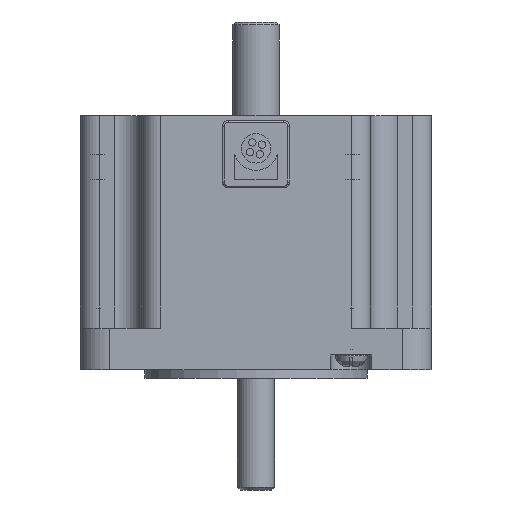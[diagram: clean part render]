
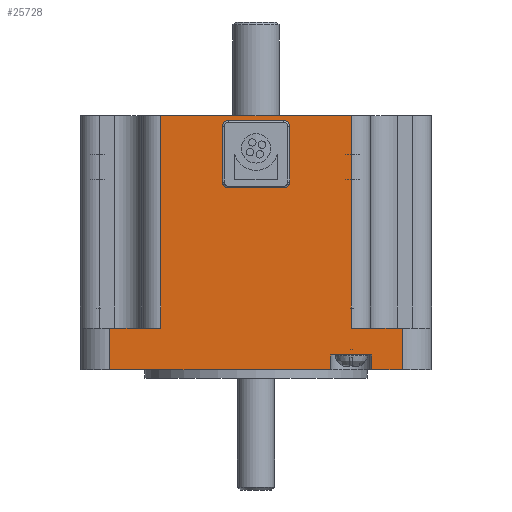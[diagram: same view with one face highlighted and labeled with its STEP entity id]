
A CAD part, front view. The second image highlights one B-rep face of the part: STEP entity #25728.
In plain terms, the highlighted planar face has unit normal (0, -1, 0).
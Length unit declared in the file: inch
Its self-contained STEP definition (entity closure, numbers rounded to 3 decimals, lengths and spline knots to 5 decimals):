
#904=CARTESIAN_POINT('',(0.18701,-1.1811,1.2815));
#905=VERTEX_POINT('',#904);
#912=CARTESIAN_POINT('',(0.22638,-1.1811,1.32087));
#913=VERTEX_POINT('',#912);
#914=CARTESIAN_POINT('',(0.18701,-1.1811,1.32087));
#915=DIRECTION('',(0.0,1.0,0.0));
#916=DIRECTION('',(1.0,0.0,0.0));
#917=AXIS2_PLACEMENT_3D('',#914,#915,#916);
#918=CIRCLE('',#917,0.03937);
#919=EDGE_CURVE('',#913,#905,#918,.T.);
#936=CARTESIAN_POINT('',(-0.18701,-1.1811,1.2815));
#937=VERTEX_POINT('',#936);
#944=CARTESIAN_POINT('',(0.18701,-1.1811,1.2815));
#945=DIRECTION('',(-1.0,0.0,0.0));
#946=VECTOR('',#945,0.37402);
#947=LINE('',#944,#946);
#948=EDGE_CURVE('',#905,#937,#947,.T.);
#960=CARTESIAN_POINT('',(-0.22638,-1.1811,1.32087));
#961=VERTEX_POINT('',#960);
#968=CARTESIAN_POINT('',(-0.18701,-1.1811,1.32087));
#969=DIRECTION('',(0.0,1.0,0.0));
#970=DIRECTION('',(0.0,0.0,-1.0));
#971=AXIS2_PLACEMENT_3D('',#968,#969,#970);
#972=CIRCLE('',#971,0.03937);
#973=EDGE_CURVE('',#937,#961,#972,.T.);
#985=CARTESIAN_POINT('',(-0.22638,-1.1811,1.69488));
#986=VERTEX_POINT('',#985);
#993=CARTESIAN_POINT('',(-0.22638,-1.1811,1.32087));
#994=DIRECTION('',(0.0,0.0,1.0));
#995=VECTOR('',#994,0.37402);
#996=LINE('',#993,#995);
#997=EDGE_CURVE('',#961,#986,#996,.T.);
#1296=CARTESIAN_POINT('',(-0.18701,-1.1811,1.73425));
#1297=VERTEX_POINT('',#1296);
#1304=CARTESIAN_POINT('',(-0.18701,-1.1811,1.69488));
#1305=DIRECTION('',(0.0,1.0,0.0));
#1306=DIRECTION('',(-1.0,0.0,0.0));
#1307=AXIS2_PLACEMENT_3D('',#1304,#1305,#1306);
#1308=CIRCLE('',#1307,0.03937);
#1309=EDGE_CURVE('',#986,#1297,#1308,.T.);
#1321=CARTESIAN_POINT('',(0.18701,-1.1811,1.73425));
#1322=VERTEX_POINT('',#1321);
#1329=CARTESIAN_POINT('',(-0.18701,-1.1811,1.73425));
#1330=DIRECTION('',(1.0,0.0,0.0));
#1331=VECTOR('',#1330,0.37402);
#1332=LINE('',#1329,#1331);
#1333=EDGE_CURVE('',#1297,#1322,#1332,.T.);
#1346=CARTESIAN_POINT('',(0.22638,-1.1811,1.69488));
#1347=VERTEX_POINT('',#1346);
#1348=CARTESIAN_POINT('',(0.22638,-1.1811,1.69488));
#1349=DIRECTION('',(0.0,0.0,-1.0));
#1350=VECTOR('',#1349,0.37402);
#1351=LINE('',#1348,#1350);
#1352=EDGE_CURVE('',#1347,#913,#1351,.T.);
#1370=CARTESIAN_POINT('',(0.18701,-1.1811,1.69488));
#1371=DIRECTION('',(0.0,1.0,0.0));
#1372=DIRECTION('',(0.0,0.0,1.0));
#1373=AXIS2_PLACEMENT_3D('',#1370,#1371,#1372);
#1374=CIRCLE('',#1373,0.03937);
#1375=EDGE_CURVE('',#1322,#1347,#1374,.T.);
#9253=CARTESIAN_POINT('',(0.64173,-1.1811,1.76772));
#9254=VERTEX_POINT('',#9253);
#9255=CARTESIAN_POINT('',(-0.64173,-1.1811,1.76772));
#9256=VERTEX_POINT('',#9255);
#9257=CARTESIAN_POINT('',(0.64173,-1.1811,1.76772));
#9258=DIRECTION('',(-1.0,0.0,0.0));
#9259=VECTOR('',#9258,1.28346);
#9260=LINE('',#9257,#9259);
#9261=EDGE_CURVE('',#9254,#9256,#9260,.T.);
#25282=CARTESIAN_POINT('',(0.77756,-1.1811,0.15748));
#25283=VERTEX_POINT('',#25282);
#25284=CARTESIAN_POINT('',(0.77756,-1.1811,0.05906));
#25285=VERTEX_POINT('',#25284);
#25286=CARTESIAN_POINT('',(0.77756,-1.1811,0.15748));
#25287=DIRECTION('',(0.0,0.0,-1.0));
#25288=VECTOR('',#25287,0.09843);
#25289=LINE('',#25286,#25288);
#25290=EDGE_CURVE('',#25283,#25285,#25289,.T.);
#25360=CARTESIAN_POINT('',(0.50197,-1.1811,0.05906));
#25361=VERTEX_POINT('',#25360);
#25362=CARTESIAN_POINT('',(0.50197,-1.1811,0.15748));
#25363=VERTEX_POINT('',#25362);
#25364=CARTESIAN_POINT('',(0.50197,-1.1811,0.05906));
#25365=DIRECTION('',(0.0,0.0,1.0));
#25366=VECTOR('',#25365,0.09843);
#25367=LINE('',#25364,#25366);
#25368=EDGE_CURVE('',#25361,#25363,#25367,.T.);
#25399=CARTESIAN_POINT('',(0.50197,-1.1811,0.15748));
#25400=DIRECTION('',(1.0,0.0,0.0));
#25401=VECTOR('',#25400,0.27559);
#25402=LINE('',#25399,#25401);
#25403=EDGE_CURVE('',#25363,#25283,#25402,.T.);
#25647=CARTESIAN_POINT('',(0.98425,-1.1811,0.0));
#25648=DIRECTION('',(0.0,-1.0,0.0));
#25649=DIRECTION('',(0.0,0.0,-1.0));
#25650=AXIS2_PLACEMENT_3D('',#25647,#25648,#25649);
#25651=PLANE('',#25650);
#25652=CARTESIAN_POINT('',(0.64173,-1.1811,0.33858));
#25653=VERTEX_POINT('',#25652);
#25654=CARTESIAN_POINT('',(0.64173,-1.1811,1.76772));
#25655=DIRECTION('',(0.0,0.0,-1.0));
#25656=VECTOR('',#25655,1.42913);
#25657=LINE('',#25654,#25656);
#25658=EDGE_CURVE('',#9254,#25653,#25657,.T.);
#25659=ORIENTED_EDGE('',*,*,#25658,.F.);
#25660=ORIENTED_EDGE('',*,*,#9261,.T.);
#25661=CARTESIAN_POINT('',(-0.64173,-1.1811,0.33858));
#25662=VERTEX_POINT('',#25661);
#25663=CARTESIAN_POINT('',(-0.64173,-1.1811,1.76772));
#25664=DIRECTION('',(0.0,0.0,-1.0));
#25665=VECTOR('',#25664,1.42913);
#25666=LINE('',#25663,#25665);
#25667=EDGE_CURVE('',#9256,#25662,#25666,.T.);
#25668=ORIENTED_EDGE('',*,*,#25667,.T.);
#25669=CARTESIAN_POINT('',(-0.98425,-1.1811,0.33858));
#25670=VERTEX_POINT('',#25669);
#25671=CARTESIAN_POINT('',(-0.64173,-1.1811,0.33858));
#25672=DIRECTION('',(-1.0,0.0,0.0));
#25673=VECTOR('',#25672,0.34252);
#25674=LINE('',#25671,#25673);
#25675=EDGE_CURVE('',#25662,#25670,#25674,.T.);
#25676=ORIENTED_EDGE('',*,*,#25675,.T.);
#25677=CARTESIAN_POINT('',(-0.98425,-1.1811,0.05906));
#25678=VERTEX_POINT('',#25677);
#25679=CARTESIAN_POINT('',(-0.98425,-1.1811,0.05906));
#25680=DIRECTION('',(0.0,0.0,1.0));
#25681=VECTOR('',#25680,0.27953);
#25682=LINE('',#25679,#25681);
#25683=EDGE_CURVE('',#25678,#25670,#25682,.T.);
#25684=ORIENTED_EDGE('',*,*,#25683,.F.);
#25685=CARTESIAN_POINT('',(-0.98425,-1.1811,0.05906));
#25686=DIRECTION('',(1.0,0.0,0.0));
#25687=VECTOR('',#25686,1.48622);
#25688=LINE('',#25685,#25687);
#25689=EDGE_CURVE('',#25678,#25361,#25688,.T.);
#25690=ORIENTED_EDGE('',*,*,#25689,.T.);
#25691=ORIENTED_EDGE('',*,*,#25368,.T.);
#25692=ORIENTED_EDGE('',*,*,#25403,.T.);
#25693=ORIENTED_EDGE('',*,*,#25290,.T.);
#25694=CARTESIAN_POINT('',(0.98425,-1.1811,0.05906));
#25695=VERTEX_POINT('',#25694);
#25696=CARTESIAN_POINT('',(0.77756,-1.1811,0.05906));
#25697=DIRECTION('',(1.0,0.0,0.0));
#25698=VECTOR('',#25697,0.20669);
#25699=LINE('',#25696,#25698);
#25700=EDGE_CURVE('',#25285,#25695,#25699,.T.);
#25701=ORIENTED_EDGE('',*,*,#25700,.T.);
#25702=CARTESIAN_POINT('',(0.98425,-1.1811,0.33858));
#25703=VERTEX_POINT('',#25702);
#25704=CARTESIAN_POINT('',(0.98425,-1.1811,0.05906));
#25705=DIRECTION('',(0.0,0.0,1.0));
#25706=VECTOR('',#25705,0.27953);
#25707=LINE('',#25704,#25706);
#25708=EDGE_CURVE('',#25695,#25703,#25707,.T.);
#25709=ORIENTED_EDGE('',*,*,#25708,.T.);
#25710=CARTESIAN_POINT('',(0.98425,-1.1811,0.33858));
#25711=DIRECTION('',(-1.0,0.0,0.0));
#25712=VECTOR('',#25711,0.34252);
#25713=LINE('',#25710,#25712);
#25714=EDGE_CURVE('',#25703,#25653,#25713,.T.);
#25715=ORIENTED_EDGE('',*,*,#25714,.T.);
#25716=EDGE_LOOP('',(#25659,#25660,#25668,#25676,#25684,#25690,#25691,#25692,#25693,#25701,#25709,#25715));
#25717=FACE_OUTER_BOUND('',#25716,.T.);
#25718=ORIENTED_EDGE('',*,*,#919,.T.);
#25719=ORIENTED_EDGE('',*,*,#948,.T.);
#25720=ORIENTED_EDGE('',*,*,#973,.T.);
#25721=ORIENTED_EDGE('',*,*,#997,.T.);
#25722=ORIENTED_EDGE('',*,*,#1309,.T.);
#25723=ORIENTED_EDGE('',*,*,#1333,.T.);
#25724=ORIENTED_EDGE('',*,*,#1375,.T.);
#25725=ORIENTED_EDGE('',*,*,#1352,.T.);
#25726=EDGE_LOOP('',(#25718,#25719,#25720,#25721,#25722,#25723,#25724,#25725));
#25727=FACE_BOUND('',#25726,.T.);
#25728=ADVANCED_FACE('',(#25717,#25727),#25651,.T.);
